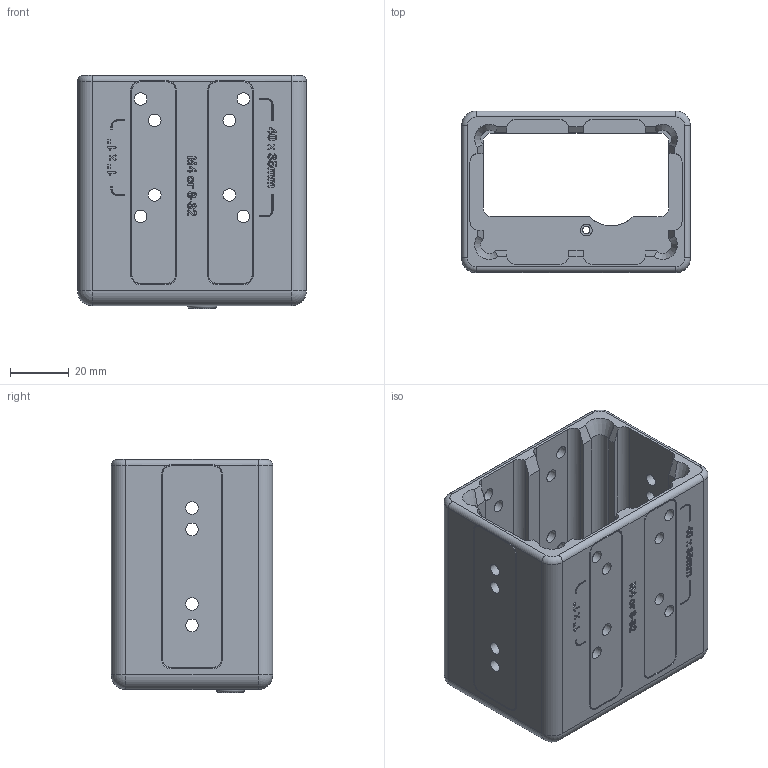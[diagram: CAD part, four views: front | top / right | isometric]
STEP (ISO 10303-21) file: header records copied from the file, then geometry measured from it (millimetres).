
FILE_DESCRIPTION (( 'STEP AP214' ), '1' );
FILE_NAME ('0729-CTF-00013-02.STEP', '2017-07-13T13:38:48', ( 'Admin' ), ( 'Microsoft' ), 'SwSTEP 2.0', 'SolidWorks 2015', '' );
FILE_SCHEMA (( 'AUTOMOTIVE_DESIGN' ));
Length unit declared in the file: millimetre
Products named in the file (2): 0729-CTF-00013-02
Bounding box: 78 x 55 x 79.4 mm (x, y, z)
Volume: 93219.2 mm3; surface area: 43792.7 mm2
Topology: 1 solids, 1 shells, 758 faces, 2046 edges, 1332 vertices
Faces by surface type: plane 340, bspline 280, cone 68, cylinder 60, torus 6, sphere 4
Full cylindrical faces by diameter (mm): 2.5 x1, 4 x1, 4.3 x24
Entity records: 35121 total; most frequent: CARTESIAN_POINT 18015, ORIENTED_EDGE 4006, DIRECTION 2582, EDGE_CURVE 2003, VERTEX_POINT 1319, VECTOR 1170, LINE 1170, EDGE_LOOP 882
